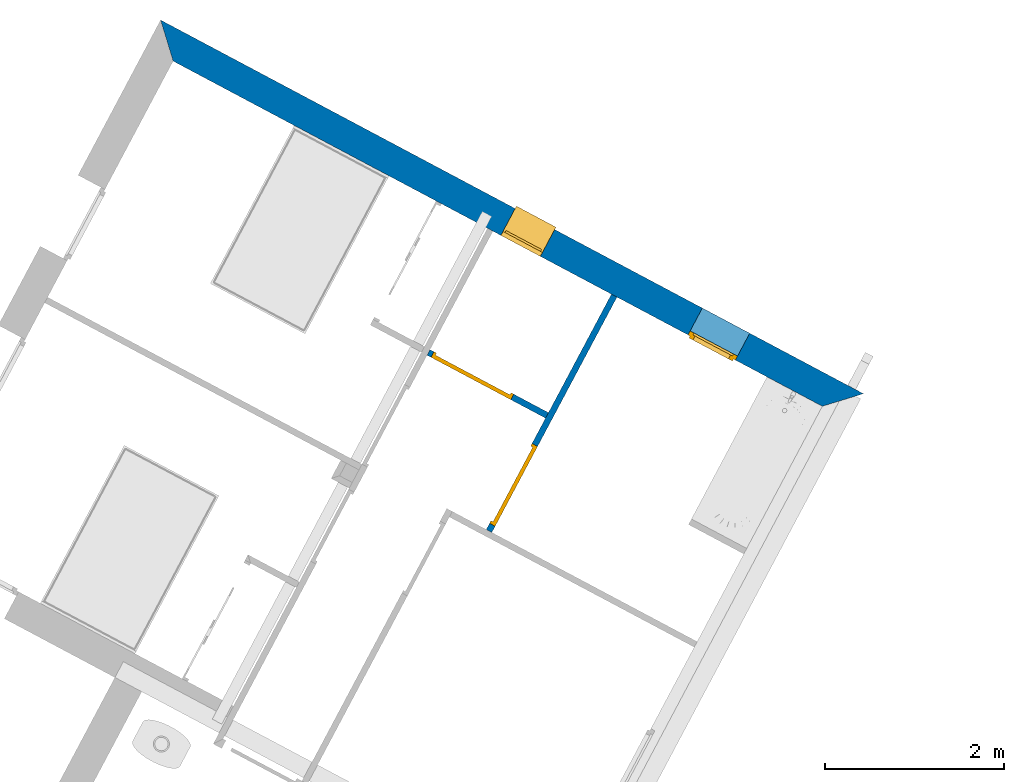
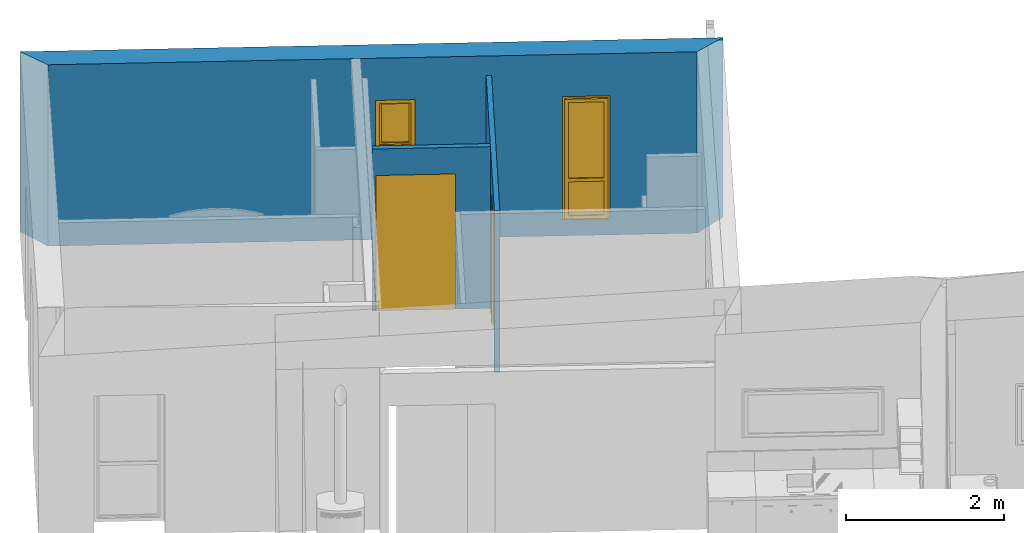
# One storey, part 7 of 27: 3 walls, 2 doors, 2 windows, 4 openings.
"""IFC2X3 building model written with IfcOpenShell, lengths in metres."""

from ifc_helpers import new_model, entity, si_unit, converted_unit, derived_unit, money_unit, direction, frame, origin_with_axes, origin_2d_with_axis, place, context, subcontext, project, spatial, polyline, rectangle, outline, extrude, clip, halfspace, open_shell, faceted_brep, surface_model, source, transform, mapped, material, layer, layer_set, layer_usage, type_object, element, fill, save


model = new_model("IFC2X3")

# Units and contexts
model_context = context("Model", 3, precision=1e-05, world=origin_with_axes(), true_north=direction((0.0, 1.0)))
body_context = subcontext(model_context, "Body", "Model", "MODEL_VIEW")
ifc_project = project(units=[si_unit("LENGTHUNIT", "METRE"), si_unit("AREAUNIT", "SQUARE_METRE"), si_unit("VOLUMEUNIT", "CUBIC_METRE"), converted_unit("PLANEANGLEUNIT", "DEGREE", entity("IfcPlaneAngleMeasure", 0.0174532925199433), si_unit("PLANEANGLEUNIT", "RADIAN"), dimensions=[0, 0, 0, 0, 0, 0, 0]), money_unit("CHF"), converted_unit("TIMEUNIT", "Year", entity("IfcTimeMeasure", 31557600.0), si_unit("TIMEUNIT", "SECOND"), dimensions=[0, 0, 1, 0, 0, 0, 0]), si_unit("MASSUNIT", "GRAM", prefix="KILO"), si_unit("THERMODYNAMICTEMPERATUREUNIT", "DEGREE_CELSIUS"), si_unit("LUMINOUSINTENSITYUNIT", "LUMEN"), si_unit("ENERGYUNIT", "JOULE", prefix="MEGA"), derived_unit("THERMALCONDUCTANCEUNIT", [(si_unit("POWERUNIT", "WATT"), 1), (si_unit("LENGTHUNIT", "METRE"), -1), (si_unit("THERMODYNAMICTEMPERATUREUNIT", "KELVIN"), -1)]), derived_unit("SPECIFICHEATCAPACITYUNIT", [(si_unit("ENERGYUNIT", "JOULE"), 1), (si_unit("MASSUNIT", "GRAM", prefix="KILO"), -1), (si_unit("THERMODYNAMICTEMPERATUREUNIT", "KELVIN"), -1)]), derived_unit("MASSDENSITYUNIT", [(si_unit("MASSUNIT", "GRAM", prefix="KILO"), 1), (si_unit("VOLUMEUNIT", "CUBIC_METRE"), -1)])], contexts=[model_context])

# Site, building, storey
site_placement = place(None, frame((0.0, 0.0, 0.0), z_axis=(0.0, 0.0, 1.0), x_axis=(-0.4694715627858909, -0.8829475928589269, 0.0)))
site = spatial("IfcSite", under=ifc_project, at=site_placement, Name="Site", CompositionType="ELEMENT")
building_placement = place(site_placement, origin_with_axes())
building = spatial("IfcBuilding", under=site, at=building_placement, Name="Bâtiment", CompositionType="ELEMENT")
storey_placement = place(building_placement, origin_with_axes())
storey = spatial("IfcBuildingStorey", under=building, at=storey_placement, Name="RDC", CompositionType="ELEMENT", Elevation=0.0)

# Wall, openings, windows
ifc_material_1 = material(Name="Maçonnerie 290464332")
ifc_layer_1 = layer(ifc_material_1, 0.2, ventilated="UNKNOWN")
ifc_material_2 = material(Name="Isolation 272048125")
ifc_layer_2 = layer(ifc_material_2, 0.14, ventilated="UNKNOWN")
ifc_layer_set_1 = layer_set([ifc_layer_1, ifc_layer_2], Name="MUR EXT 34 0024849982")
ifc_layer_usage_1 = layer_usage(ifc_layer_set_1, "AXIS2", "POSITIVE", 0.0)
wall_type_1 = type_object("IfcWallType", Name="MUR EXT 34 0024849982 340", PredefinedType="NOTDEFINED")
wall_1_placement = place(storey_placement, frame((127.1595710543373, -831.29459910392, 0.0), z_axis=(0.0, 0.0, 1.0), x_axis=(0.0, -1.0, 0.0)))
wall_1 = element("IfcWallStandardCase", 1, at=wall_1_placement, inside=storey, type_object=wall_type_1, material=ifc_layer_usage_1, Name="Mur-394", context=body_context, shape_type="Clipping", body=[
    clip(extrude(outline(polyline([(0.0, 0.0), (8.899999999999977, 0.0), (8.559999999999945, 0.3400000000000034), (0.3400000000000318, 0.3400000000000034), (0.0, 0.0)])), origin_with_axes(), (0.0, 0.0, 1.0), 5.0), halfspace(frame((0.0, -0.2205678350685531, 2.757097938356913), z_axis=(0.0, 0.07974522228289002, -0.9968152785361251), x_axis=(0.0, 0.9968152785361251, 0.07974522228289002)), True)),
])
opening_1_placement = place(wall_1_placement, frame((4.159999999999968, 0.0, 1.4), z_axis=(0.0, 0.0, 1.0), x_axis=(1.0, 0.0, 0.0)))
opening_1 = element("IfcOpeningElement", 2, at=opening_1_placement, cuts=wall_1, Name="Fen-156", context=body_context, shape_type="SweptSolid", body=[
    extrude(rectangle(XDim=0.5, YDim=0.7500000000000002, at=origin_2d_with_axis()), frame((0.0, -0.3400000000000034, 0.375), z_axis=(0.0, -1.0, 0.0), x_axis=(-1.0, 0.0, 0.0)), (0.0, 0.0, -1.0), 1.02),
])
opening_2_placement = place(wall_1_placement, frame((1.740000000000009, 0.0, 0.25), z_axis=(0.0, 0.0, 1.0), x_axis=(1.0, 0.0, 0.0)))
opening_2 = element("IfcOpeningElement", 3, at=opening_2_placement, cuts=wall_1, Name="Fen-156", context=body_context, shape_type="SweptSolid", body=[
    extrude(rectangle(XDim=0.599999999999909, YDim=1.9, at=origin_2d_with_axis()), frame((0.0, -0.3400000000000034, 0.9500000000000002), z_axis=(0.0, 1.0, 0.0), x_axis=(-1.0, 0.0, 0.0)), (0.0, 0.0, 1.0), 1.02),
])
window_style_1 = type_object("IfcWindowStyle", Name="Fen châssis simple 10", ConstructionType="NOTDEFINED", OperationType="SINGLE_PANEL", ParameterTakesPrecedence=False, Sizeable=False)
shared_shape_1 = source(origin_with_axes(), body_context, "Body", "SurfaceModel", [
    faceted_brep([(-0.25, -0.05, 0.0), (-0.25, -0.34, 0.0), (-0.25, -0.34, 0.009801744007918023), (-0.25, -0.05, 0.02499999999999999), (0.25, -0.05, 0.0), (0.25, -0.34, 0.0), (0.25, -0.37, 0.0), (-0.25, -0.37, 0.0), (-0.25, -0.37, 0.008229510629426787), (0.25, -0.37, 0.008229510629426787), (0.25, -0.34, 0.009801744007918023), (0.25, -0.05, 0.02499999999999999)], [[[0, 1, 2, 3]], [[0, 4, 5, 6, 7, 1]], [[1, 7, 8, 2]], [[3, 2, 8, 9, 10, 11]], [[4, 0, 3, 11]], [[5, 4, 11, 10]], [[6, 5, 10, 9]], [[7, 6, 9, 8]]]),
    faceted_brep([(0.2, -0.05, 0.7), (0.25, -0.05, 0.7), (0.25, 0.0, 0.7), (0.2, 0.0, 0.7), (0.2, -0.05, 0.04999999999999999), (0.25, -0.05, 0.04999999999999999), (0.25, 0.0, 0.04999999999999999), (0.2, 0.0, 0.04999999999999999)], [[[0, 1, 2, 3]], [[4, 5, 1, 0]], [[1, 5, 6, 2]], [[2, 6, 7, 3]], [[4, 0, 3, 7]], [[5, 4, 7, 6]]]),
    faceted_brep([(-0.2, -0.05, 0.04999999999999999), (-0.25, -0.05, 0.04999999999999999), (-0.25, 0.0, 0.04999999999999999), (-0.2, 0.0, 0.04999999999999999), (-0.2, -0.05, 0.7), (-0.25, -0.05, 0.7), (-0.25, 0.0, 0.7), (-0.2, 0.0, 0.7)], [[[0, 1, 2, 3]], [[4, 5, 1, 0]], [[1, 5, 6, 2]], [[2, 6, 7, 3]], [[4, 0, 3, 7]], [[5, 4, 7, 6]]]),
    faceted_brep([(-0.2, -0.05, 0.7), (-0.25, -0.05, 0.7), (-0.25, 0.0, 0.7), (-0.2, 0.0, 0.7), (0.2, -0.05, 0.7), (0.25, -0.05, 0.7), (0.25, -0.05, 0.75), (-0.25, -0.05, 0.75), (-0.25, 0.0, 0.75), (0.25, 0.0, 0.75), (0.25, 0.0, 0.7), (0.2, 0.0, 0.7)], [[[0, 1, 2, 3]], [[4, 5, 6, 7, 1, 0]], [[1, 7, 8, 2]], [[2, 8, 9, 10, 11, 3]], [[4, 0, 3, 11]], [[5, 4, 11, 10]], [[6, 5, 10, 9]], [[7, 6, 9, 8]]]),
    faceted_brep([(0.2, -0.05, 0.04999999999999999), (0.25, -0.05, 0.04999999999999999), (0.25, 0.0, 0.04999999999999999), (0.2, 0.0, 0.04999999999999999), (-0.2, -0.05, 0.04999999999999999), (-0.25, -0.05, 0.04999999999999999), (-0.25, -0.05, 0.0), (0.25, -0.05, 0.0), (0.25, 0.0, 0.0), (-0.25, 0.0, 0.0), (-0.25, 0.0, 0.04999999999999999), (-0.2, 0.0, 0.04999999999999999)], [[[0, 1, 2, 3]], [[4, 5, 6, 7, 1, 0]], [[1, 7, 8, 2]], [[2, 8, 9, 10, 11, 3]], [[4, 0, 3, 11]], [[5, 4, 11, 10]], [[6, 5, 10, 9]], [[7, 6, 9, 8]]]),
    faceted_brep([(-0.175, -0.02500000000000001, 0.07500000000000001), (-0.175, -0.02500000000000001, 0.6749999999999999), (-0.175, -0.07500000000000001, 0.6749999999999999), (-0.175, -0.07500000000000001, 0.07500000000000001), (-0.225, -0.02500000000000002, 0.07500000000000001), (-0.225, -0.02500000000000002, 0.6749999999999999), (-0.225, -0.07500000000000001, 0.6749999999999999), (-0.225, -0.07500000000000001, 0.07500000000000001)], [[[0, 1, 2, 3]], [[0, 4, 5, 1]], [[1, 5, 6, 2]], [[3, 2, 6, 7]], [[4, 0, 3, 7]], [[5, 4, 7, 6]]]),
    faceted_brep([(0.225, -0.02499999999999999, 0.07500000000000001), (0.225, -0.02499999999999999, 0.6749999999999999), (0.225, -0.07499999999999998, 0.6749999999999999), (0.225, -0.07499999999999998, 0.07500000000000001), (0.175, -0.02499999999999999, 0.07500000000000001), (0.175, -0.02499999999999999, 0.6749999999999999), (0.175, -0.07499999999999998, 0.6749999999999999), (0.175, -0.07499999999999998, 0.07500000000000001)], [[[0, 1, 2, 3]], [[0, 4, 5, 1]], [[1, 5, 6, 2]], [[3, 2, 6, 7]], [[4, 0, 3, 7]], [[5, 4, 7, 6]]]),
    faceted_brep([(0.225, -0.02499999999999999, 0.025), (0.225, -0.02499999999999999, 0.07500000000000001), (0.225, -0.07499999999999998, 0.07500000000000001), (0.225, -0.07499999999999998, 0.025), (-0.225, -0.02500000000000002, 0.025), (-0.225, -0.02500000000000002, 0.07500000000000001), (-0.175, -0.02500000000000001, 0.07500000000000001), (0.175, -0.02499999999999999, 0.07500000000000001), (0.175, -0.07499999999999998, 0.07500000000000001), (-0.175, -0.07500000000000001, 0.07500000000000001), (-0.225, -0.07500000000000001, 0.07500000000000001), (-0.225, -0.07500000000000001, 0.025)], [[[0, 1, 2, 3]], [[0, 4, 5, 6, 7, 1]], [[1, 7, 8, 2]], [[3, 2, 8, 9, 10, 11]], [[4, 0, 3, 11]], [[5, 4, 11, 10]], [[6, 5, 10, 9]], [[7, 6, 9, 8]]]),
    faceted_brep([(-0.225, -0.02500000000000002, 0.725), (-0.225, -0.02500000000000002, 0.6749999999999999), (-0.225, -0.07500000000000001, 0.6749999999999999), (-0.225, -0.07500000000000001, 0.725), (0.225, -0.02499999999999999, 0.725), (0.225, -0.02499999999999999, 0.6749999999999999), (0.175, -0.02499999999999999, 0.6749999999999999), (-0.175, -0.02500000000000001, 0.6749999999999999), (-0.175, -0.07500000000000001, 0.6749999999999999), (0.175, -0.07499999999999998, 0.6749999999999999), (0.225, -0.07499999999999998, 0.6749999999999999), (0.225, -0.07499999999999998, 0.725)], [[[0, 1, 2, 3]], [[0, 4, 5, 6, 7, 1]], [[1, 7, 8, 2]], [[3, 2, 8, 9, 10, 11]], [[4, 0, 3, 11]], [[5, 4, 11, 10]], [[6, 5, 10, 9]], [[7, 6, 9, 8]]]),
    surface_model("IfcShellBasedSurfaceModel", [(-0.175, -0.04, 0.07500000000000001), (-0.175, -0.04, 0.6749999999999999), (0.175, -0.04, 0.6749999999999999), (0.175, -0.04, 0.07500000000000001)], [open_shell([[[0, 1, 2, 3]]])]),
    surface_model("IfcShellBasedSurfaceModel", [(-0.175, -0.06, 0.07500000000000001), (0.175, -0.06, 0.07500000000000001), (0.175, -0.06, 0.6749999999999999), (-0.175, -0.06, 0.6749999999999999)], [open_shell([[[0, 1, 2, 3]]])]),
])
window_1_placement = place(opening_1_placement, frame((-0.25, 0.0, 0.0), z_axis=(0.0, 0.0, 1.0), x_axis=(1.0, 0.0, 0.0)))
window_1 = element("IfcWindow", 4, at=window_1_placement, inside=storey, type_object=window_style_1, Name="Fen-156", OverallHeight=0.75, OverallWidth=0.5, context=body_context, shape_type="MappedRepresentation", body=[
    mapped(shared_shape_1, transform((0.25, 0.3400000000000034, 0.0))),
])
fill(opening_1, window_1)
window_style_2 = type_object("IfcWindowStyle", Name="Fen à carreaux 10", ConstructionType="NOTDEFINED", OperationType="SINGLE_PANEL", ParameterTakesPrecedence=False, Sizeable=False)
shared_shape_2 = source(origin_with_axes(), body_context, "Body", "SurfaceModel", [
    faceted_brep([(-0.275, -0.05, 1.85), (-0.275, -0.02500000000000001, 1.85), (-0.25, -0.02500000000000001, 1.85), (-0.25, 0.0, 1.85), (-0.3, 0.0, 1.85), (-0.3, -0.05, 1.85), (-0.275, -0.05, 0.05000000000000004), (-0.275, -0.02500000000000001, 0.05000000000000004), (-0.25, -0.02500000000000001, 0.05000000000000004), (-0.25, 0.0, 0.05000000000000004), (-0.3, 0.0, 0.05000000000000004), (-0.3, -0.05, 0.05000000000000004)], [[[0, 1, 2, 3, 4, 5]], [[1, 0, 6, 7]], [[8, 2, 1, 7]], [[2, 8, 9, 3]], [[3, 9, 10, 4]], [[5, 4, 10, 11]], [[6, 0, 5, 11]], [[7, 6, 11, 10, 9, 8]]]),
    faceted_brep([(0.25, -0.02500000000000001, 1.85), (0.275, -0.02500000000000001, 1.85), (0.275, -0.05, 1.85), (0.3, -0.05, 1.85), (0.3, 0.0, 1.85), (0.25, 0.0, 1.85), (0.25, -0.02500000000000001, 0.05000000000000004), (0.275, -0.02500000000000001, 0.05000000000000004), (0.275, -0.05, 0.05000000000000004), (0.3, -0.05, 0.05000000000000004), (0.3, 0.0, 0.05000000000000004), (0.25, 0.0, 0.05000000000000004)], [[[0, 1, 2, 3, 4, 5]], [[1, 0, 6, 7]], [[8, 2, 1, 7]], [[2, 8, 9, 3]], [[9, 10, 4, 3]], [[4, 10, 11, 5]], [[6, 0, 5, 11]], [[7, 6, 11, 10, 9, 8]]]),
    faceted_brep([(-0.275, -0.05, 1.85), (-0.275, -0.05, 1.875), (0.275, -0.05, 1.875), (0.275, -0.05, 1.85), (0.3, -0.05, 1.85), (0.3, -0.05, 1.9), (-0.3, -0.05, 1.9), (-0.3, -0.05, 1.85), (-0.275, -0.02500000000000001, 1.85), (-0.275, -0.02500000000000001, 1.875), (0.275, -0.02500000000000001, 1.875), (0.275, -0.02500000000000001, 1.85), (0.25, -0.02500000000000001, 1.85), (0.25, 0.0, 1.85), (0.3, 0.0, 1.85), (0.3, 0.0, 1.9), (-0.3, 0.0, 1.9), (-0.3, 0.0, 1.85), (-0.25, 0.0, 1.85), (-0.25, -0.02500000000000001, 1.85)], [[[0, 1, 2, 3, 4, 5, 6, 7]], [[1, 0, 8, 9]], [[2, 1, 9, 10]], [[3, 2, 10, 11]], [[11, 12, 13, 14, 4, 3]], [[4, 14, 15, 5]], [[5, 15, 16, 6]], [[6, 16, 17, 7]], [[8, 0, 7, 17, 18, 19]], [[12, 11, 10, 9, 8, 19]], [[12, 19, 18, 13]], [[18, 17, 16, 15, 14, 13]]]),
    faceted_brep([(0.25, -0.02500000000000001, 0.05000000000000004), (0.275, -0.02500000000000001, 0.05000000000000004), (0.275, -0.05, 0.05000000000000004), (0.3, -0.05, 0.05000000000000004), (0.3, 0.0, 0.05000000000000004), (0.25, 0.0, 0.05000000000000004), (-0.25, -0.02500000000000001, 0.05000000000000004), (-0.275, -0.02500000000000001, 0.05000000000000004), (-0.275, -0.02500000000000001, 0.02500000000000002), (0.275, -0.02500000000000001, 0.02500000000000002), (0.275, -0.05, 0.02500000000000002), (-0.275, -0.05, 0.02500000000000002), (-0.275, -0.05, 0.05000000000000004), (-0.3, -0.05, 0.05000000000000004), (-0.3, -0.05, 0.0), (0.3, -0.05, 0.0), (0.3, 0.0, 0.0), (-0.3, 0.0, 0.0), (-0.3, 0.0, 0.05000000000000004), (-0.25, 0.0, 0.05000000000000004)], [[[0, 1, 2, 3, 4, 5]], [[1, 0, 6, 7, 8, 9]], [[10, 2, 1, 9]], [[11, 12, 13, 14, 15, 3, 2, 10]], [[15, 16, 4, 3]], [[16, 17, 18, 19, 5, 4]], [[6, 0, 5, 19]], [[7, 6, 19, 18, 13, 12]], [[7, 12, 11, 8]], [[11, 10, 9, 8]], [[13, 18, 17, 14]], [[14, 17, 16, 15]]]),
    surface_model("IfcShellBasedSurfaceModel", [(-0.225, -0.04, 0.07500000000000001), (-0.225, -0.04, 0.6000000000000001), (0.225, -0.04, 0.6000000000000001), (0.225, -0.04, 0.07500000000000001)], [open_shell([[[0, 1, 2, 3]]])]),
    surface_model("IfcShellBasedSurfaceModel", [(-0.225, -0.06, 0.07500000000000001), (0.225, -0.06, 0.07500000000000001), (0.225, -0.06, 0.6000000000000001), (-0.225, -0.06, 0.6000000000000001)], [open_shell([[[0, 1, 2, 3]]])]),
    surface_model("IfcShellBasedSurfaceModel", [(-0.225, -0.04, 0.65), (-0.225, -0.04, 1.825), (0.225, -0.04, 1.825), (0.225, -0.04, 0.65)], [open_shell([[[0, 1, 2, 3]]])]),
    surface_model("IfcShellBasedSurfaceModel", [(-0.225, -0.06, 0.65), (0.225, -0.06, 0.65), (0.225, -0.06, 1.825), (-0.225, -0.06, 1.825)], [open_shell([[[0, 1, 2, 3]]])]),
    faceted_brep([(-0.225, -0.02500000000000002, 0.07500000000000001), (-0.225, -0.02500000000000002, 1.825), (-0.225, -0.07500000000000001, 1.825), (-0.225, -0.07500000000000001, 0.07500000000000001), (-0.275, -0.02500000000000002, 0.07500000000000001), (-0.275, -0.02500000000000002, 1.825), (-0.275, -0.07500000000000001, 1.825), (-0.275, -0.07500000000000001, 0.07500000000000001)], [[[0, 1, 2, 3]], [[0, 4, 5, 1]], [[1, 5, 6, 2]], [[3, 2, 6, 7]], [[4, 0, 3, 7]], [[5, 4, 7, 6]]]),
    faceted_brep([(0.275, -0.02499999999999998, 0.07500000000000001), (0.275, -0.02499999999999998, 1.825), (0.275, -0.07499999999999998, 1.825), (0.275, -0.07499999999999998, 0.07500000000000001), (0.225, -0.02499999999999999, 0.07500000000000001), (0.225, -0.02499999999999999, 1.825), (0.225, -0.07499999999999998, 1.825), (0.225, -0.07499999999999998, 0.07500000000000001)], [[[0, 1, 2, 3]], [[0, 4, 5, 1]], [[1, 5, 6, 2]], [[3, 2, 6, 7]], [[4, 0, 3, 7]], [[5, 4, 7, 6]]]),
    faceted_brep([(-0.225, -0.02500000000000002, 0.65), (-0.225, -0.02500000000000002, 0.6), (-0.225, -0.07500000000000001, 0.6), (-0.225, -0.07500000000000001, 0.65), (0.225, -0.02499999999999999, 0.65), (0.225, -0.02499999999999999, 0.6), (0.225, -0.07499999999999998, 0.6), (0.225, -0.07499999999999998, 0.65)], [[[0, 1, 2, 3]], [[0, 4, 5, 1]], [[1, 5, 6, 2]], [[3, 2, 6, 7]], [[4, 0, 3, 7]], [[5, 4, 7, 6]]]),
    faceted_brep([(-0.275, -0.02500000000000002, 0.025), (0.275, -0.02499999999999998, 0.025), (0.275, -0.07499999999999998, 0.025), (-0.275, -0.07500000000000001, 0.025), (-0.275, -0.02500000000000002, 0.07500000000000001), (-0.225, -0.02500000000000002, 0.07500000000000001), (0.225, -0.02499999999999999, 0.07500000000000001), (0.275, -0.02499999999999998, 0.07500000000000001), (0.275, -0.07499999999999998, 0.07500000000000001), (0.225, -0.07499999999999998, 0.07500000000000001), (-0.225, -0.07500000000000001, 0.07500000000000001), (-0.275, -0.07500000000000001, 0.07500000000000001)], [[[0, 1, 2, 3]], [[0, 4, 5, 6, 7, 1]], [[1, 7, 8, 2]], [[3, 2, 8, 9, 10, 11]], [[4, 0, 3, 11]], [[5, 4, 11, 10]], [[6, 5, 10, 9]], [[7, 6, 9, 8]]]),
    faceted_brep([(-0.275, -0.02500000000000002, 1.825), (-0.225, -0.02500000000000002, 1.825), (-0.225, -0.07500000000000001, 1.825), (-0.275, -0.07500000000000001, 1.825), (-0.275, -0.02500000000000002, 1.875), (0.275, -0.02499999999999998, 1.875), (0.275, -0.02499999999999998, 1.825), (0.225, -0.02499999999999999, 1.825), (0.225, -0.07499999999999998, 1.825), (0.275, -0.07499999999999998, 1.825), (0.275, -0.07499999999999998, 1.875), (-0.275, -0.07500000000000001, 1.875)], [[[0, 1, 2, 3]], [[0, 4, 5, 6, 7, 1]], [[1, 7, 8, 2]], [[3, 2, 8, 9, 10, 11]], [[4, 0, 3, 11]], [[5, 4, 11, 10]], [[6, 5, 10, 9]], [[7, 6, 9, 8]]]),
])
window_2_placement = place(opening_2_placement, frame((0.2999999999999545, 0.0, 0.0), z_axis=(0.0, 0.0, 1.0), x_axis=(-1.0, 0.0, 0.0)))
window_2 = element("IfcWindow", 5, at=window_2_placement, inside=storey, type_object=window_style_2, Name="Fen-156", OverallHeight=1.9, OverallWidth=0.6, context=body_context, shape_type="MappedRepresentation", body=[
    mapped(shared_shape_2, transform((0.2999999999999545, -0.2900000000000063, 0.0))),
])
fill(opening_2, window_2)

# Wall, opening, door
ifc_material_3 = material(Name="Isolation 269295175")
ifc_layer_3 = layer(ifc_material_3, 0.07, ventilated="UNKNOWN")
ifc_layer_set_2 = layer_set([ifc_layer_3], Name="CLOISON 7 0024849982")
ifc_layer_usage_2 = layer_usage(ifc_layer_set_2, "AXIS2", "NEGATIVE", 0.0)
wall_type_2 = type_object("IfcWallType", Name="CLOISON 7 0024849982 70", PredefinedType="NOTDEFINED")
wall_2_placement = place(storey_placement, frame((127.4995710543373, -834.2345991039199, 0.0), z_axis=(0.0, 0.0, 1.0), x_axis=(1.0, 0.0, 0.0)))
wall_2 = element("IfcWallStandardCase", 6, at=wall_2_placement, inside=storey, type_object=wall_type_2, material=ifc_layer_usage_2, Name="Mur-395", context=body_context, shape_type="SweptSolid", body=[
    extrude(outline(polyline([(0.0, -0.07000000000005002), (2.97999999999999, -0.07000000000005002), (2.97999999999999, 0.0), (0.0, 0.0), (0.0, -0.07000000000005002)])), origin_with_axes(), (0.0, 0.0, 1.0), 2.5),
])
opening_3_placement = place(wall_2_placement, frame((2.396561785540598, 0.0, 0.0), z_axis=(0.0, 0.0, 1.0), x_axis=(1.0, 0.0, 0.0)))
opening_3 = element("IfcOpeningElement", 7, at=opening_3_placement, cuts=wall_2, Name="porte 75", context=body_context, shape_type="SweptSolid", body=[
    extrude(rectangle(XDim=1.009999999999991, YDim=2.09, at=origin_2d_with_axis()), frame((0.0, -0.07000000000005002, 1.045), z_axis=(0.0, 1.0, 0.0), x_axis=(1.0, 0.0, 0.0)), (0.0, 0.0, 1.0), 0.21),
])
door_style = type_object("IfcDoorStyle", Name="P_int simple à carreaux 10", ConstructionType="NOTDEFINED", OperationType="SINGLE_SWING_RIGHT", ParameterTakesPrecedence=False, Sizeable=False)
shared_shape_3 = source(origin_with_axes(), body_context, "Body", "Brep", [
    faceted_brep([(-0.473, -0.044, 0.0), (-0.473, -0.044, 2.058), (-0.473, -0.07, 2.058), (-0.473, -0.07, 0.0), (-0.485, -0.044, 2.058), (-0.485, -0.044, 0.0), (-0.485, 0.0, 2.058), (-0.505, 0.0, 2.058), (-0.505, -0.07, 2.058), (-0.505, -0.07, 0.0), (-0.505, 0.0, 0.0), (-0.485, 0.0, 0.0)], [[[0, 1, 2, 3]], [[4, 1, 0, 5]], [[4, 6, 7, 8, 2, 1]], [[2, 8, 9, 3]], [[5, 0, 3, 9, 10, 11]], [[6, 4, 5, 11]], [[6, 11, 10, 7]], [[10, 9, 8, 7]]]),
    faceted_brep([(0.485, -0.044, 2.058), (0.473, -0.044, 2.058), (0.473, -0.07, 2.058), (0.505, -0.07, 2.058), (0.505, 0.0, 2.058), (0.485, 0.0, 2.058), (0.485, -0.044, 0.0), (0.473, -0.044, 0.0), (0.473, -0.07, 0.0), (0.505, -0.07, 0.0), (0.505, 0.0, 0.0), (0.485, 0.0, 0.0)], [[[0, 1, 2, 3, 4, 5]], [[1, 0, 6, 7]], [[1, 7, 8, 2]], [[3, 2, 8, 9]], [[4, 3, 9, 10]], [[11, 5, 4, 10]], [[0, 5, 11, 6]], [[6, 11, 10, 9, 8, 7]]]),
    faceted_brep([(-0.485, 0.0, 2.07), (-0.485, 0.0, 2.058), (-0.505, 0.0, 2.058), (-0.505, 0.0, 2.09), (0.505, 0.0, 2.09), (0.505, 0.0, 2.058), (0.485, 0.0, 2.058), (0.485, 0.0, 2.07), (-0.485, -0.044, 2.07), (-0.485, -0.044, 2.058), (-0.473, -0.044, 2.058), (-0.473, -0.07, 2.058), (-0.505, -0.07, 2.058), (-0.505, -0.07, 2.09), (0.505, -0.07, 2.09), (0.505, -0.07, 2.058), (0.485, -0.044, 2.058), (0.473, -0.07, 2.058), (0.473, -0.044, 2.058), (0.485, -0.044, 2.07)], [[[0, 1, 2, 3, 4, 5, 6, 7]], [[1, 0, 8, 9]], [[9, 10, 11, 12, 2, 1]], [[2, 12, 13, 3]], [[3, 13, 14, 4]], [[4, 14, 15, 5]], [[16, 6, 5, 15, 17, 18]], [[7, 6, 16, 19]], [[0, 7, 19, 8]], [[16, 18, 10, 9, 8, 19]], [[10, 18, 17, 11]], [[17, 15, 14, 13, 12, 11]]]),
    faceted_brep([(-0.09999999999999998, -0.044, 0.0), (-0.1, -0.04400000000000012, 2.07), (-0.485, -0.04400000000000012, 2.07), (-0.485, -0.044, 0.0), (-0.1, 0.0, 2.07), (-0.09999999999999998, 0.0, 0.0), (-0.485, 0.0, 2.07), (-0.485, 0.0, 0.0)], [[[0, 1, 2, 3]], [[4, 1, 0, 5]], [[1, 4, 6, 2]], [[3, 2, 6, 7]], [[5, 0, 3, 7]], [[4, 5, 7, 6]]]),
    faceted_brep([(0.1, 0.0, 2.07), (0.1, -0.04400000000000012, 2.07), (0.485, -0.04400000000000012, 2.07), (0.485, 0.0, 2.07), (0.09999999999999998, -0.044, 0.0), (0.09999999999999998, 0.0, 0.0), (0.485, -0.044, 0.0), (0.485, 0.0, 0.0)], [[[0, 1, 2, 3]], [[4, 1, 0, 5]], [[1, 4, 6, 2]], [[2, 6, 7, 3]], [[5, 0, 3, 7]], [[4, 5, 7, 6]]]),
    faceted_brep([(-0.1, 0.0, 1.87), (-0.1, -0.044, 1.87), (-0.1, -0.044, 2.07), (-0.1, 0.0, 2.07), (0.1, 0.0, 1.87), (0.1, -0.044, 1.87), (0.1, -0.044, 2.07), (0.1, 0.0, 2.07)], [[[0, 1, 2, 3]], [[4, 5, 1, 0]], [[1, 5, 6, 2]], [[3, 2, 6, 7]], [[0, 3, 7, 4]], [[7, 6, 5, 4]]]),
    faceted_brep([(-0.1, 0.0, 1.67), (-0.1, -0.044, 1.67), (-0.1, -0.044, 1.87), (-0.1, 0.0, 1.87), (0.1, 0.0, 1.67), (0.1, -0.044, 1.67), (0.1, -0.044, 1.87), (0.1, 0.0, 1.87)], [[[0, 1, 2, 3]], [[4, 5, 1, 0]], [[1, 5, 6, 2]], [[3, 2, 6, 7]], [[0, 3, 7, 4]], [[7, 6, 5, 4]]]),
    faceted_brep([(-0.1, 0.0, 1.47), (-0.1, -0.044, 1.47), (-0.1, -0.044, 1.67), (-0.1, 0.0, 1.67), (0.1, 0.0, 1.47), (0.1, -0.044, 1.47), (0.1, -0.044, 1.67), (0.1, 0.0, 1.67)], [[[0, 1, 2, 3]], [[4, 5, 1, 0]], [[1, 5, 6, 2]], [[3, 2, 6, 7]], [[0, 3, 7, 4]], [[7, 6, 5, 4]]]),
    faceted_brep([(-0.1, 0.0, 1.27), (-0.1, -0.044, 1.27), (-0.1, -0.044, 1.47), (-0.1, 0.0, 1.47), (0.1, 0.0, 1.27), (0.1, -0.044, 1.27), (0.1, -0.044, 1.47), (0.1, 0.0, 1.47)], [[[0, 1, 2, 3]], [[4, 5, 1, 0]], [[1, 5, 6, 2]], [[3, 2, 6, 7]], [[0, 3, 7, 4]], [[7, 6, 5, 4]]]),
    faceted_brep([(-0.1, 0.0, 1.07), (-0.1, -0.044, 1.07), (-0.1, -0.044, 1.27), (-0.1, 0.0, 1.27), (0.1, 0.0, 1.07), (0.1, -0.044, 1.07), (0.1, -0.044, 1.27), (0.1, 0.0, 1.27)], [[[0, 1, 2, 3]], [[4, 5, 1, 0]], [[1, 5, 6, 2]], [[3, 2, 6, 7]], [[0, 3, 7, 4]], [[7, 6, 5, 4]]]),
    faceted_brep([(-0.1, 0.0, 0.8700000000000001), (-0.1, -0.044, 0.8700000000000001), (-0.1, -0.044, 1.07), (-0.1, 0.0, 1.07), (0.1, 0.0, 0.8700000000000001), (0.1, -0.044, 0.8700000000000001), (0.1, -0.044, 1.07), (0.1, 0.0, 1.07)], [[[0, 1, 2, 3]], [[4, 5, 1, 0]], [[1, 5, 6, 2]], [[3, 2, 6, 7]], [[0, 3, 7, 4]], [[7, 6, 5, 4]]]),
    faceted_brep([(-0.1, 0.0, 0.6700000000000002), (-0.1, -0.044, 0.6700000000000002), (-0.1, -0.044, 0.8700000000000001), (-0.1, 0.0, 0.8700000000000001), (0.1, 0.0, 0.6700000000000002), (0.1, -0.044, 0.6700000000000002), (0.1, -0.044, 0.8700000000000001), (0.1, 0.0, 0.8700000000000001)], [[[0, 1, 2, 3]], [[4, 5, 1, 0]], [[1, 5, 6, 2]], [[3, 2, 6, 7]], [[0, 3, 7, 4]], [[7, 6, 5, 4]]]),
    faceted_brep([(-0.1, 0.0, 0.4700000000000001), (-0.1, -0.044, 0.4700000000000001), (-0.1, -0.044, 0.6700000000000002), (-0.1, 0.0, 0.6700000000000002), (0.1, 0.0, 0.4700000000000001), (0.1, -0.044, 0.4700000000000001), (0.1, -0.044, 0.6700000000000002), (0.1, 0.0, 0.6700000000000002)], [[[0, 1, 2, 3]], [[4, 5, 1, 0]], [[1, 5, 6, 2]], [[3, 2, 6, 7]], [[0, 3, 7, 4]], [[7, 6, 5, 4]]]),
    faceted_brep([(-0.1, 0.0, 0.2700000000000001), (-0.1, -0.044, 0.2700000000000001), (-0.1, -0.044, 0.4700000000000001), (-0.1, 0.0, 0.4700000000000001), (0.1, 0.0, 0.2700000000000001), (0.1, -0.044, 0.2700000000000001), (0.1, -0.044, 0.4700000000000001), (0.1, 0.0, 0.4700000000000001)], [[[0, 1, 2, 3]], [[4, 5, 1, 0]], [[1, 5, 6, 2]], [[3, 2, 6, 7]], [[0, 3, 7, 4]], [[7, 6, 5, 4]]]),
    faceted_brep([(-0.1, 0.0, 0.07000000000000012), (-0.1, -0.044, 0.07000000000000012), (-0.1, -0.044, 0.2700000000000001), (-0.1, 0.0, 0.2700000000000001), (0.1, 0.0, 0.07000000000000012), (0.1, -0.044, 0.07000000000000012), (0.1, -0.044, 0.2700000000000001), (0.1, 0.0, 0.2700000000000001)], [[[0, 1, 2, 3]], [[4, 5, 1, 0]], [[1, 5, 6, 2]], [[3, 2, 6, 7]], [[0, 3, 7, 4]], [[7, 6, 5, 4]]]),
    faceted_brep([(-0.1, -0.044, 0.0), (0.1, -0.044, 0.0), (0.1, -0.044, 0.07000000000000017), (-0.1, -0.044, 0.07000000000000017), (0.1, 0.0, 0.0), (-0.1, 0.0, 0.0), (0.1, 0.0, 0.07000000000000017), (-0.1, 0.0, 0.07000000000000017)], [[[0, 1, 2, 3]], [[4, 1, 0, 5]], [[1, 4, 6, 2]], [[3, 2, 6, 7]], [[5, 0, 3, 7]], [[4, 5, 7, 6]]]),
])
door_1_placement = place(opening_3_placement, frame((-0.504999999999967, 0.0, 0.0), z_axis=(0.0, 0.0, 1.0), x_axis=(1.0, 0.0, 0.0)))
door_1 = element("IfcDoor", 8, at=door_1_placement, inside=storey, type_object=door_style, Name="porte 75", OverallHeight=2.09, OverallWidth=1.01, context=body_context, shape_type="MappedRepresentation", body=[
    mapped(shared_shape_3, transform((0.5049999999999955, 0.0, 0.0))),
])
fill(opening_3, door_1)

ifc_layer_usage_3 = layer_usage(ifc_layer_set_2, "AXIS2", "NEGATIVE", 0.0)
wall_3_placement = place(storey_placement, frame((128.9995710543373, -835.8045991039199, 0.0), z_axis=(0.0, 0.0, 1.0), x_axis=(0.0, 1.0, 0.0)))
wall_3 = element("IfcWallStandardCase", 9, at=wall_3_placement, inside=storey, type_object=wall_type_2, material=ifc_layer_usage_3, Name="Mur-396", context=body_context, shape_type="SweptSolid", body=[
    extrude(outline(polyline([(0.0, -0.06999999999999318), (1.5, -0.06999999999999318), (1.5, 0.0), (0.0, 0.0), (0.0, -0.06999999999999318)])), origin_with_axes(), (0.0, 0.0, 1.0), 2.5),
])
opening_4_placement = place(wall_3_placement, frame((0.5550000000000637, 0.0, 0.0), z_axis=(0.0, 0.0, 1.0), x_axis=(1.0, 0.0, 0.0)))
opening_4 = element("IfcOpeningElement", 10, at=opening_4_placement, cuts=wall_3, Name="porte 75", context=body_context, shape_type="SweptSolid", body=[
    extrude(rectangle(XDim=1.009999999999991, YDim=2.09, at=origin_2d_with_axis()), frame((0.0, 0.06999999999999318, 1.045), z_axis=(0.0, -1.0, 0.0), x_axis=(-1.0, 0.0, 0.0)), (0.0, 0.0, 1.0), 0.21),
])
door_2_placement = place(opening_4_placement, frame((0.5049999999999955, 0.0, 0.0), z_axis=(0.0, 0.0, 1.0), x_axis=(-1.0, 0.0, 0.0)))
door_2 = element("IfcDoor", 11, at=door_2_placement, inside=storey, type_object=door_style, Name="porte 75", OverallHeight=2.09, OverallWidth=1.01, context=body_context, shape_type="MappedRepresentation", body=[
    mapped(shared_shape_3, transform((0.5049999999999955, 0.06999999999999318, 0.0))),
])
fill(opening_4, door_2)

save(model, "model.ifc")
